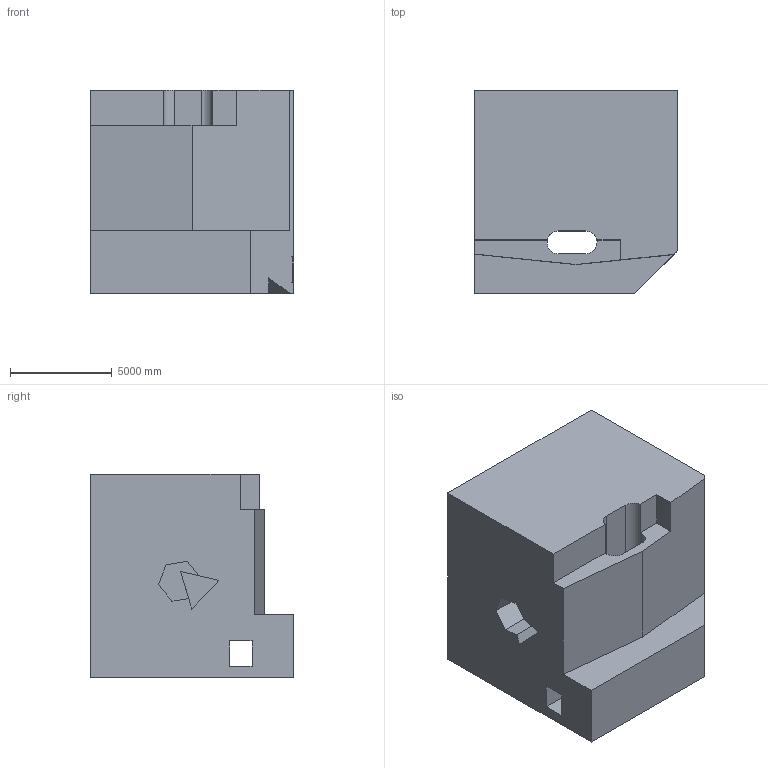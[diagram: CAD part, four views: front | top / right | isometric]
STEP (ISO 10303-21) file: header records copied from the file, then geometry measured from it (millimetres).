
FILE_DESCRIPTION (( 'STEP AP203' ), '1' );
FILE_NAME ('738.STEP', '2022-07-29T12:51:44', ( 'user' ), ( '' ), 'SwSTEP 2.0', 'SolidWorks 2021', '' );
FILE_SCHEMA (( 'CONFIG_CONTROL_DESIGN' ));
Length unit declared in the file: centimetre
Products named in the file (1): 738
Bounding box: 10000 x 10000 x 10000 mm (x, y, z)
Volume: 819779899320.7 mm3; surface area: 674678044.7 mm2
Topology: 1 solids, 1 shells, 38 faces, 117 edges, 78 vertices
Faces by surface type: plane 34, cylinder 4
Entity records: 1384 total; most frequent: CARTESIAN_POINT 234, ORIENTED_EDGE 234, DIRECTION 209, EDGE_CURVE 117, VECTOR 103, LINE 103, VERTEX_POINT 78, AXIS2_PLACEMENT_3D 53
